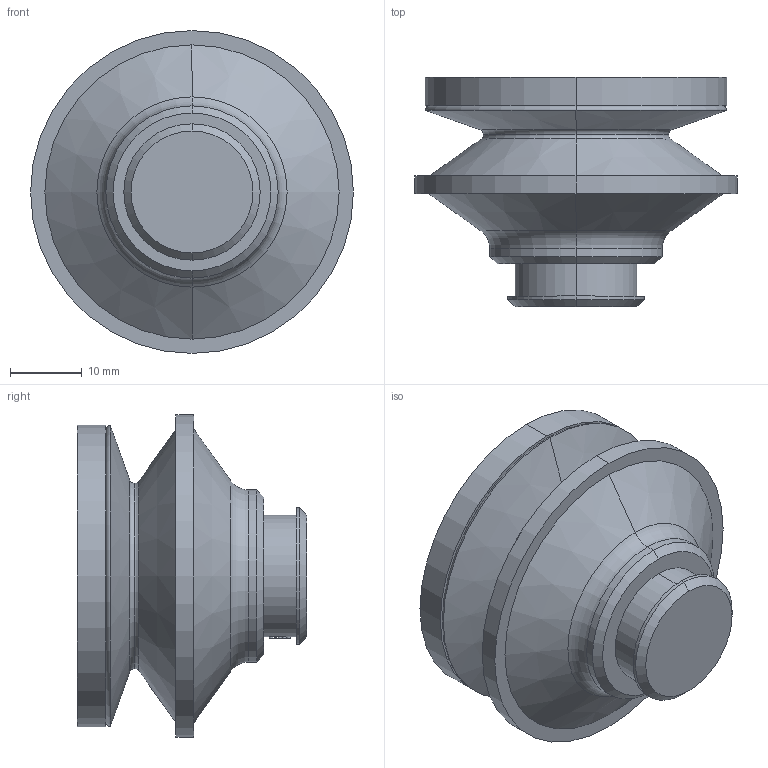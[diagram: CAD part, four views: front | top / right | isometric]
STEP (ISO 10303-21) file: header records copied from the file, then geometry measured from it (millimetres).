
FILE_DESCRIPTION (( 'STEP AP203' ), '1' );
FILE_NAME ('0321625.STEP', '2023-05-11T08:09:03', ( '' ), ( '' ), 'SwSTEP 2.0', 'SolidWorks 2022', '' );
FILE_SCHEMA (( 'CONFIG_CONTROL_DESIGN' ));
Length unit declared in the file: millimetre
Products named in the file (2): Copy of 0321625-AS01^0321625; 0321625
Assembly tree (1 placements, depth 2):
  0321625
    Copy of 0321625-AS01^0321625
Bounding box: 45 x 32 x 45 mm (x, y, z)
Volume: 26439.2 mm3; surface area: 7124.3 mm2
Topology: 1 solids, 1 shells, 73 faces, 152 edges, 96 vertices
Faces by surface type: bspline 24, cylinder 24, cone 10, torus 8, plane 7
Entity records: 3246 total; most frequent: CARTESIAN_POINT 1681, ORIENTED_EDGE 304, DIRECTION 226, EDGE_CURVE 152, AXIS2_PLACEMENT_3D 101, VERTEX_POINT 96, EDGE_LOOP 88, B_SPLINE_CURVE_WITH_KNOTS 80
